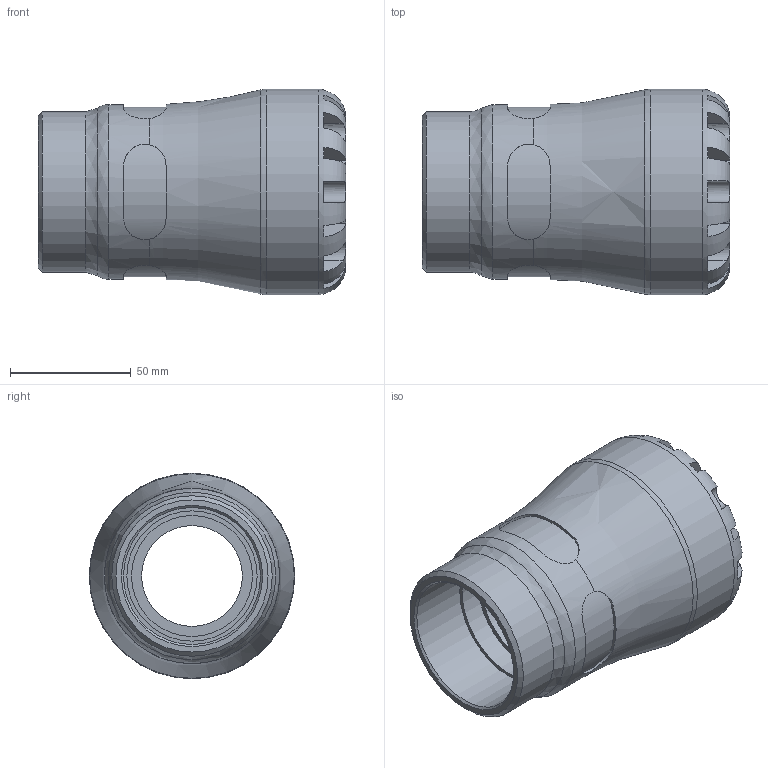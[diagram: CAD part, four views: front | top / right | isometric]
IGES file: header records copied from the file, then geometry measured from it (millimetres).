
Global section: file name: 107300050020_197300050020.ipt; native system: Autodesk Inventor 2015; preprocessor: unknown; author: KIM; date: 20170122.113636; units: millimetre
Bounding box: 127 x 85 x 85 mm (x, y, z)
Volume: 302814.2 mm3; surface area: 58573.6 mm2
Topology: 1 solids, 1 shells, 106 faces, 281 edges, 181 vertices
Faces by surface type: plane 62, revolution 28, cylinder 15, cone 1
Full cylindrical faces by diameter (mm): 66.3 x1, 72.25 x1, 85 x1
